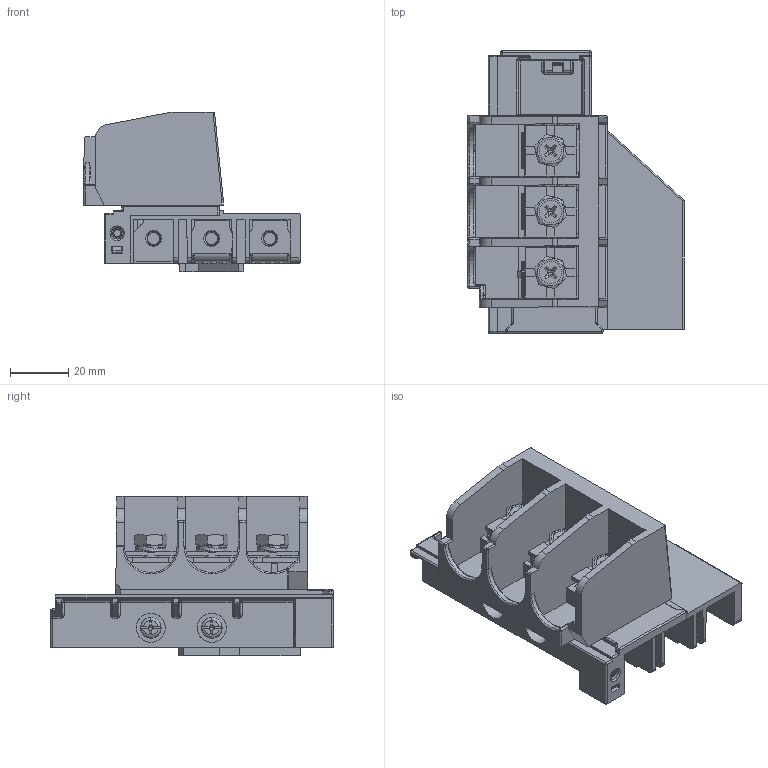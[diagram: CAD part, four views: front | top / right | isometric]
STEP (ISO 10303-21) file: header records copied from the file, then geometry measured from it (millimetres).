
FILE_DESCRIPTION((''),'2;1');
FILE_NAME('YJ10000','2020-11-02T',('renkang.li'),(''),'CREO PARAMETRIC BY PTC INC, 2016260','CREO PARAMETRIC BY PTC INC, 2016260','');
FILE_SCHEMA(('CONFIG_CONTROL_DESIGN'));
Products named in the file (1): YJ10000
Bounding box: 74.5 x 97.2 x 55 mm (x, y, z)
Volume: 76586.9 mm3; surface area: 64353.1 mm2
Topology: 3 solids, 69 shells, 2508 faces, 7099 edges, 4545 vertices
Faces by surface type: plane 1536, cylinder 508, bspline 189, cone 176, sphere 54, torus 30, extrusion 15
Entity records: 105990 total; most frequent: CARTESIAN_POINT 43715, ORIENTED_EDGE 14048, DIRECTION 11310, EDGE_CURVE 7024, VECTOR 4618, LINE 4603, VERTEX_POINT 4543, AXIS2_PLACEMENT_3D 3346
